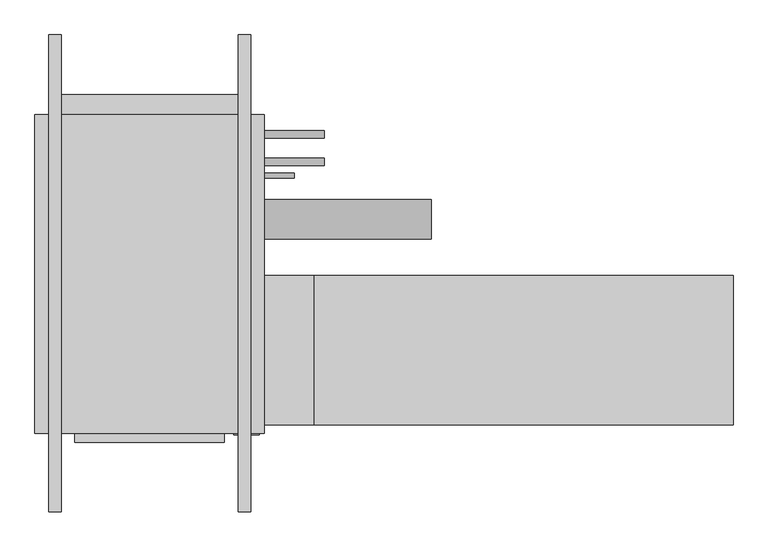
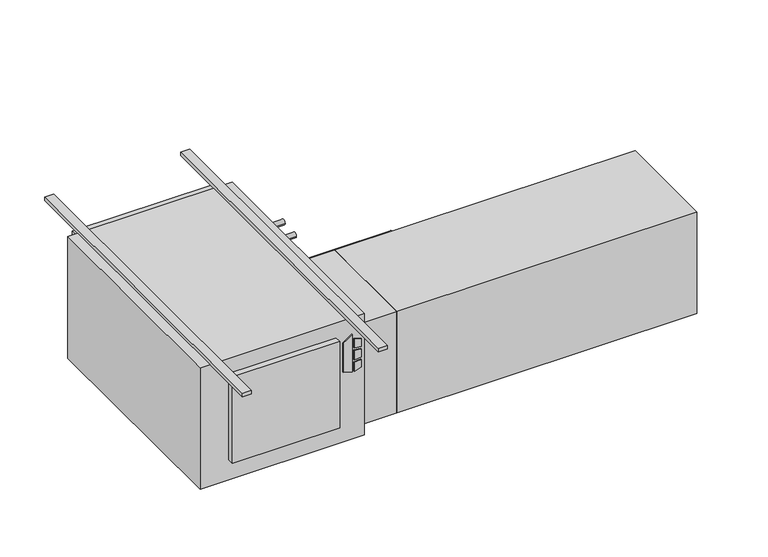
"""IFC4 building model written with IfcOpenShell, lengths in millimetres: proxy geometry."""

from ifc_helpers import new_model, si_unit, point, frame, frame_2d, origin, origin_with_axes, place, context, project, spatial, polyline, circle_curve, trimmed, segment, composite_curve, outline, extrude, source, transform, mapped, element, save


def mechanical_equipment_800e06f4(model_context):
    return source(origin(), model_context, "Body", "SweptSolid", [
        extrude(outline(polyline([(-193.2519297, 366.7868862), (-203.2, 398.9602728), (-61.0290756, 398.9602728), (-84.0510817, 366.7868862), (-193.2519297, 366.7868862)])), frame((0.0, -647.7, 0.0), z_axis=(0.0, 1.0, 0.0), x_axis=(0.0, 0.0, 1.0)), (0.0, 0.0, 1.0), 3.175),
        extrude(outline(polyline([(-114.2526443, 405.7186058), (-117.4550368, 431.8), (-88.2261958, 431.8), (-80.1617807, 405.7186058), (-114.2526443, 405.7186058)])), frame((0.0, -647.7, 0.0), z_axis=(0.0, 1.0, 0.0), x_axis=(0.0, 0.0, 1.0)), (0.0, 0.0, 1.0), 3.175),
        extrude(outline(polyline([(-166.1161712, 431.8), (-169.7816721, 405.7186058), (-203.2, 405.7186058), (-194.5657628, 431.8), (-166.1161712, 431.8)])), frame((0.0, -647.7, 0.0), z_axis=(0.0, 1.0, 0.0), x_axis=(0.0, 0.0, 1.0)), (0.0, 0.0, 1.0), 3.175),
        extrude(outline(polyline([(-126.8010097, 431.8), (-124.5191834, 405.7186058), (-160.4567319, 405.7186058), (-157.7154669, 431.8), (-126.8010097, 431.8)])), frame((0.0, -647.7, 0.0), z_axis=(0.0, 1.0, 0.0), x_axis=(0.0, 0.0, 1.0)), (0.0, 0.0, 1.0), 3.175),
        extrude(outline(polyline([(342.9, -666.877), (-38.1, -666.877), (-38.1, -644.525), (342.9, -644.525), (342.9, -666.877)])), frame((0.0, 0.0, -381.0), z_axis=(0.0, 0.0, 1.0), x_axis=(1.0, 0.0, 0.0)), (0.0, 0.0, 1.0), 323.85),
        extrude(outline(polyline([(1638.3, -241.3), (1638.3, -622.3), (571.5, -622.3), (571.5, -241.3), (1638.3, -241.3)])), frame((0.0, 0.0, -431.8), z_axis=(0.0, 0.0, 1.0), x_axis=(1.0, 0.0, 0.0)), (0.0, 0.0, 1.0), 381.0),
        extrude(outline(polyline([(571.5, -241.3), (571.5, -622.3), (444.5, -622.3), (444.5, -241.3), (571.5, -241.3)])), frame((0.0, 0.0, -431.8), z_axis=(0.0, 0.0, 1.0), x_axis=(1.0, 0.0, 0.0)), (0.0, 0.0, 1.0), 381.0),
        extrude(outline(composite_curve([segment(trimmed(circle_curve(frame_2d((117.475, -171.45)), 9.525), [point((127.0, -171.45))], [point((107.95, -171.45))], False, "CARTESIAN"), True, "CONTINUOUS"), segment(trimmed(circle_curve(frame_2d((117.475, -171.45)), 9.525), [point((107.95, -171.45))], [point((127.0, -171.45))], False, "CARTESIAN"), True, "CONTINUOUS")], self_intersect=False)), frame((444.5, 0.0, 0.0), z_axis=(1.0, 0.0, 0.0), x_axis=(0.0, 1.0, 0.0)), (0.0, 0.0, 1.0), 152.4),
        extrude(outline(composite_curve([segment(trimmed(circle_curve(frame_2d((47.625, -177.8)), 9.525), [point((57.15, -177.8))], [point((38.1, -177.8))], False, "CARTESIAN"), True, "CONTINUOUS"), segment(trimmed(circle_curve(frame_2d((47.625, -177.8)), 9.525), [point((38.1, -177.8))], [point((57.15, -177.8))], False, "CARTESIAN"), True, "CONTINUOUS")], self_intersect=False)), frame((444.5, 0.0, 0.0), z_axis=(1.0, 0.0, 0.0), x_axis=(0.0, 1.0, 0.0)), (0.0, 0.0, 1.0), 152.4),
        extrude(outline(composite_curve([segment(trimmed(circle_curve(frame_2d((-98.4896516, -228.6360165)), 50.8), [point((-47.6896516, -228.6360165))], [point((-149.2896516, -228.6360165))], False, "CARTESIAN"), True, "CONTINUOUS"), segment(trimmed(circle_curve(frame_2d((-98.4896516, -228.6360165)), 50.8), [point((-149.2896516, -228.6360165))], [point((-47.6896516, -228.6360165))], False, "CARTESIAN"), True, "CONTINUOUS")], self_intersect=False)), frame((444.5, 0.0, 0.0), z_axis=(1.0, 0.0, 0.0), x_axis=(0.0, 1.0, 0.0)), (0.0, 0.0, 1.0), 425.45),
        extrude(outline(composite_curve([segment(trimmed(circle_curve(frame_2d((12.7, -409.575)), 6.35), [point((19.05, -409.575))], [point((6.35, -409.575))], False, "CARTESIAN"), True, "CONTINUOUS"), segment(trimmed(circle_curve(frame_2d((12.7, -409.575)), 6.35), [point((6.35, -409.575))], [point((19.05, -409.575))], False, "CARTESIAN"), True, "CONTINUOUS")], self_intersect=False)), frame((444.5, 0.0, 0.0), z_axis=(1.0, 0.0, 0.0), x_axis=(0.0, 1.0, 0.0)), (0.0, 0.0, 1.0), 76.2),
        extrude(outline(polyline([(444.5, 168.275), (444.5, -644.525), (-139.7, -644.525), (-139.7, 168.275), (444.5, 168.275)])), frame((0.0, 0.0, -457.2), z_axis=(0.0, 0.0, 1.0), x_axis=(1.0, 0.0, 0.0)), (0.0, 0.0, 1.0), 457.2),
        extrude(outline(polyline([(-95.25, 219.075), (400.05, 219.075), (400.05, 168.275), (-95.25, 168.275), (-95.25, 219.075)])), frame((0.0, 0.0, -381.0), z_axis=(0.0, 0.0, 1.0), x_axis=(1.0, 0.0, 0.0)), (0.0, 0.0, 1.0), 355.6),
        extrude(outline(polyline([(-73.025, 371.475), (-73.025, -844.677), (-104.775, -844.677), (-104.775, 371.475), (-73.025, 371.475)])), origin_with_axes(), (0.0, 0.0, 1.0), 12.7),
        extrude(outline(polyline([(409.575, 371.475), (409.575, -844.677), (377.825, -844.677), (377.825, 371.475), (409.575, 371.475)])), origin_with_axes(), (0.0, 0.0, 1.0), 12.7),
    ])


if __name__ == "__main__":
    model = new_model("IFC4")
    model_context = context("Model", 3, world=origin())
    ifc_project = project(units=[si_unit("LENGTHUNIT", "METRE", prefix="MILLI")], contexts=[model_context])
    site = spatial("IfcSite", under=ifc_project)
    building = spatial("IfcBuilding", under=site)
    placement = place(None, origin())
    mechanical_equipment_shape = mechanical_equipment_800e06f4(model_context)
    element("IfcBuildingElementProxy", 1, Name="High_Capacity_Horizontal_Cabinet_Fan_Coil_Unit_-_HTY_-_IEC_-_2-Pipe_RH Side_2022 : Size 06 - 115v/60Hz/1Ph - 4/0 Coil - 4\" AirIn", ObjectType="High_Capacity_Horizontal_Cabinet_Fan_Coil_Unit_-_HTY_-_IEC_-_2-Pipe_RH Side_2022 : Size 06 - 115v/60Hz/1Ph - 4/0 Coil - 4\" AirIn", at=placement, inside=building, context=model_context, shape_type="MappedRepresentation", body=[
        mapped(mechanical_equipment_shape, transform((0.0, 0.0, 0.0), x_axis=(1.0, 0.0, 0.0), y_axis=(0.0, 1.0, 0.0), z_axis=(0.0, 0.0, 1.0))),
    ])
    save(model, "model.ifc")
